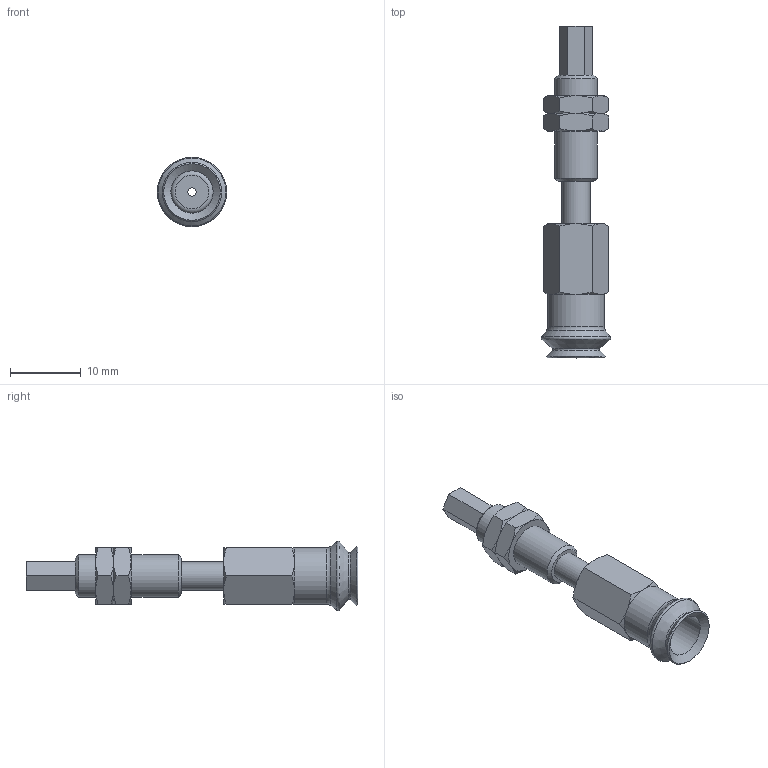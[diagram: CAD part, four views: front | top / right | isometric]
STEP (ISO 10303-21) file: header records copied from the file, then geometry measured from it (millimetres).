
FILE_DESCRIPTION(('STEP AP203'),'1');
FILE_NAME('.stp','2025-08-27T07:23:37',(' '),(' '),'Spatial InterOp 3D',' ',' ');
FILE_SCHEMA(('CONFIG_CONTROL_DESIGN'));
Length unit declared in the file: millimetre
Products named in the file (6): BNABPJTS-8-6-※; ADAPTER; NAPCTS-7-6-MBODY; NUT-NAPJ-8-6-s; NAPJTS-8-6-FBODY; BPJG-8-※
Assembly tree (6 placements, depth 2):
  BNABPJTS-8-6-※
    ADAPTER
    NAPCTS-7-6-MBODY
    NUT-NAPJ-8-6-s  x2
    NAPJTS-8-6-FBODY
    BPJG-8-※
Bounding box: 9.8 x 47 x 9.8 mm (x, y, z)
Volume: 1567.7 mm3; surface area: 2333.8 mm2
Topology: 6 solids, 6 shells, 114 faces, 239 edges, 140 vertices
Faces by surface type: cone 49, plane 45, cylinder 13, torus 7
Full cylindrical faces by diameter (mm): 1.2 x2, 2.459 x1, 4 x4, 5.188 x2, 6 x3, 8 x1
Entity records: 2678 total; most frequent: CARTESIAN_POINT 624, DIRECTION 372, ORIENTED_EDGE 310, AXIS2_PLACEMENT_3D 168, EDGE_CURVE 155, EDGE_LOOP 133, FACE_OUTER_BOUND 110, VERTEX_POINT 106
